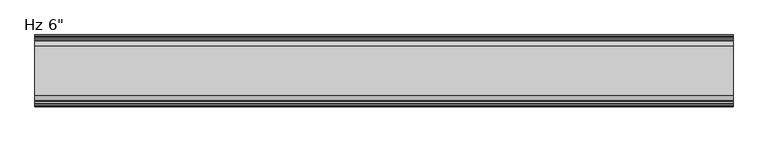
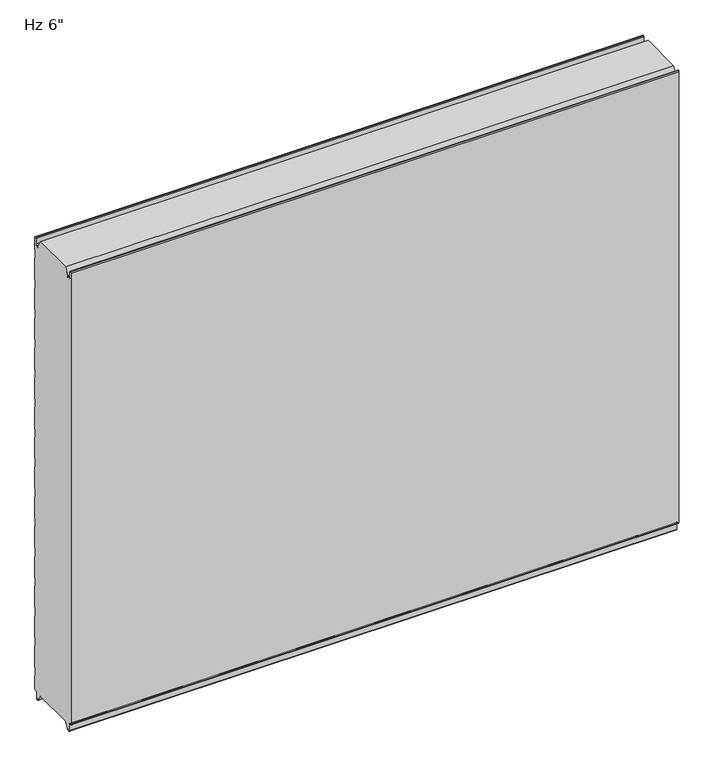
"""IFC4 building model written with IfcOpenShell, lengths in millimetres: plate geometry."""

from ifc_helpers import new_model, si_unit, frame, origin, place, context, project, spatial, polyline, circle_curve, source, transform, mapped, element, save
from ifc_brep_helpers import plane_surface, cylinder_surface, revolved_surface, advanced_brep


def plate_03f01161(model_context):
    return source(origin(), model_context, "Body", "AdvancedBrep", [
        advanced_brep(
        [(-730.0, -149.4227194, 3.8499499), (-730.0, -151.3999935, 5.8272239), (-730.0, -151.4, 1150.8100652), (-730.0, -149.4227315, 1152.7873337), (-730.0, -148.3806329, 1152.7873337), (-730.0, -146.4033643, 1150.8100652), (-730.0, -146.4033643, 1136.6216802), (-730.0, -143.8154878, 1134.0338036), (-730.0, -139.4950697, 1134.0338036), (-730.0, -138.9060762, 1133.4253365), (-730.0, -138.9060762, 1131.0482432), (-730.0, -137.9066023, 1131.0482432), (-730.0, -137.9066023, 1136.4905123), (-730.0, -128.6490865, 1152.525), (-730.0, -23.7509179, 1152.525), (-730.0, -14.4934021, 1136.4905123), (-730.0, -14.4934021, 1131.0482432), (-730.0, -13.4939282, 1131.0482432), (-730.0, -13.4939282, 1133.4253365), (-730.0, -12.9049347, 1134.0338036), (-730.0, -8.5845165, 1134.0338036), (-730.0, -5.99664, 1136.6216802), (-730.0, -5.99664, 1150.8100652), (-730.0, -4.0193715, 1152.7873337), (-730.0, -2.9772729, 1152.7873337), (-730.0, -1.0000044, 1150.8100652), (-730.0, -1.0000044, 1118.6385351), (-730.0, -2.1911595, 1117.5660142), (-730.0, -2.1911595, 1097.7830195), (-730.0, -1.0, 1096.7104947), (-730.0, -1.0, 1043.0159187), (-730.0, -2.1911595, 1041.9433939), (-730.0, -2.1911595, 1022.1603992), (-730.0, -1.0, 1021.0878744), (-730.0, -1.0, 967.3932985), (-730.0, -2.1911595, 966.3207736), (-730.0, -2.1911595, 946.537779), (-730.0, -1.0, 945.4652541), (-730.0, -1.0, 891.7706782), (-730.0, -2.1911595, 890.6981534), (-730.0, -2.1911595, 870.9151587), (-730.0, -1.0, 869.8426339), (-730.0, -1.0, 816.148058), (-730.0, -2.1911595, 815.0755331), (-730.0, -2.1911595, 795.2925384), (-730.0, -1.0, 794.2200136), (-730.0, -1.0, 740.5254377), (-730.0, -2.1911595, 739.4529129), (-730.0, -2.1911595, 719.6699182), (-730.0, -1.0, 718.5973933), (-730.0, -1.0, 664.9028174), (-730.0, -2.1911595, 663.8302926), (-730.0, -2.1911595, 644.0472979), (-730.0, -1.0, 642.9747731), (-730.0, -1.0, 589.2801972), (-730.0, -2.1911595, 588.2076723), (-730.0, -2.1911595, 568.4246776), (-730.0, -1.0, 567.3521528), (-730.0, -1.0, 513.6575769), (-730.0, -2.1911595, 512.5850521), (-730.0, -2.1911595, 492.8020574), (-730.0, -1.0, 491.7295325), (-730.0, -1.0, 438.0349566), (-730.0, -2.1911595, 436.9624318), (-730.0, -2.1911595, 417.1794371), (-730.0, -1.0, 416.1069123), (-730.0, -1.0, 362.4123364), (-730.0, -2.1911595, 361.3398115), (-730.0, -2.1911595, 341.5568169), (-730.0, -1.0, 340.484292), (-730.0, -1.0, 286.7897161), (-730.0, -2.1911595, 285.7171913), (-730.0, -2.1911595, 265.9341966), (-730.0, -1.0, 264.8616718), (-730.0, -1.0, 211.1670958), (-730.0, -2.1911595, 210.094571), (-730.0, -2.1911595, 190.3115763), (-730.0, -1.0, 189.2390515), (-730.0, -1.0, 135.5444756), (-730.0, -2.1911595, 134.4719507), (-730.0, -2.1911595, 114.6889561), (-730.0, -1.0, 113.6164312), (-730.0, -1.0, 59.9218553), (-730.0, -2.1911595, 58.8493305), (-730.0, -2.1911595, 39.0663358), (-730.0, -1.0000109, 37.993811), (-730.0, -1.0000109, 5.8272239), (-730.0, -2.9772849, 3.8499499), (-730.0, -5.2691749, 3.8499499), (-730.0, -9.246442, -0.1273173), (-730.0, -9.246442, -15.7237417), (-730.0, -9.8343189, -16.3116186), (-730.0, -12.9058679, -16.3116186), (-730.0, -13.4937446, -15.723742), (-730.0, -13.4937446, -13.3687064), (-730.0, -14.4937446, -13.3687064), (-730.0, -14.4937446, -15.6582851), (-730.0, -23.7509179, 0.0), (-730.0, -128.6490865, 0.0), (-730.0, -137.9062598, -15.6582851), (-730.0, -137.9062598, -13.3687064), (-730.0, -138.9062598, -13.3687064), (-730.0, -138.9062598, -15.723742), (-730.0, -139.4941365, -16.3116186), (-730.0, -142.5656854, -16.3116186), (-730.0, -143.1535623, -15.7237417), (-730.0, -143.1535623, -0.1273173), (-730.0, -147.1308295, 3.8499499), (730.0, -149.4227194, 3.8499499), (730.0, -147.1308295, 3.8499499), (730.0, -143.1535623, -0.1273173), (730.0, -143.1535623, -15.7237417), (730.0, -142.5656854, -16.3116186), (730.0, -139.4941365, -16.3116186), (730.0, -138.9062598, -15.723742), (730.0, -138.9062598, -13.3687064), (730.0, -137.9062598, -13.3687064), (730.0, -137.9062598, -15.6582851), (730.0, -128.6490865, 0.0), (730.0, -23.7509179, 0.0), (730.0, -14.4937446, -15.6582851), (730.0, -14.4937446, -13.3687064), (730.0, -13.4937446, -13.3687064), (730.0, -13.4937446, -15.723742), (730.0, -12.9058679, -16.3116186), (730.0, -9.8343189, -16.3116186), (730.0, -9.246442, -15.7237417), (730.0, -9.246442, -0.1273173), (730.0, -5.2691749, 3.8499499), (730.0, -2.9772849, 3.8499499), (730.0, -1.0000109, 5.8272239), (730.0, -1.0000109, 37.993811), (730.0, -2.1911595, 39.0663358), (730.0, -2.1911595, 58.8493305), (730.0, -1.0, 59.9218553), (730.0, -1.0, 113.6164312), (730.0, -2.1911595, 114.6889561), (730.0, -2.1911595, 134.4719507), (730.0, -1.0, 135.5444756), (730.0, -1.0, 189.2390515), (730.0, -2.1911595, 190.3115763), (730.0, -2.1911595, 210.094571), (730.0, -1.0, 211.1670958), (730.0, -1.0, 264.8616718), (730.0, -2.1911595, 265.9341966), (730.0, -2.1911595, 285.7171913), (730.0, -1.0, 286.7897161), (730.0, -1.0, 340.484292), (730.0, -2.1911595, 341.5568169), (730.0, -2.1911595, 361.3398115), (730.0, -1.0, 362.4123364), (730.0, -1.0, 416.1069123), (730.0, -2.1911595, 417.1794371), (730.0, -2.1911595, 436.9624318), (730.0, -1.0, 438.0349566), (730.0, -1.0, 491.7295325), (730.0, -2.1911595, 492.8020574), (730.0, -2.1911595, 512.5850521), (730.0, -1.0, 513.6575769), (730.0, -1.0, 567.3521528), (730.0, -2.1911595, 568.4246776), (730.0, -2.1911595, 588.2076723), (730.0, -1.0, 589.2801972), (730.0, -1.0, 642.9747731), (730.0, -2.1911595, 644.0472979), (730.0, -2.1911595, 663.8302926), (730.0, -1.0, 664.9028174), (730.0, -1.0, 718.5973933), (730.0, -2.1911595, 719.6699182), (730.0, -2.1911595, 739.4529129), (730.0, -1.0, 740.5254377), (730.0, -1.0, 794.2200136), (730.0, -2.1911595, 795.2925384), (730.0, -2.1911595, 815.0755331), (730.0, -1.0, 816.148058), (730.0, -1.0, 869.8426339), (730.0, -2.1911595, 870.9151587), (730.0, -2.1911595, 890.6981534), (730.0, -1.0, 891.7706782), (730.0, -1.0, 945.4652541), (730.0, -2.1911595, 946.537779), (730.0, -2.1911595, 966.3207736), (730.0, -1.0, 967.3932985), (730.0, -1.0, 1021.0878744), (730.0, -2.1911595, 1022.1603992), (730.0, -2.1911595, 1041.9433939), (730.0, -1.0, 1043.0159187), (730.0, -1.0, 1096.7104947), (730.0, -2.1911595, 1097.7830195), (730.0, -2.1911595, 1117.5660142), (730.0, -1.0000044, 1118.6385351), (730.0, -1.0000044, 1150.8100652), (730.0, -2.9772729, 1152.7873337), (730.0, -4.0193715, 1152.7873337), (730.0, -5.99664, 1150.8100652), (730.0, -5.99664, 1136.6216802), (730.0, -8.5845165, 1134.0338036), (730.0, -12.9049347, 1134.0338036), (730.0, -13.4939282, 1133.4253365), (730.0, -13.4939282, 1131.0482432), (730.0, -14.4934021, 1131.0482432), (730.0, -14.4934021, 1136.4905123), (730.0, -23.7509179, 1152.525), (730.0, -128.6490865, 1152.525), (730.0, -137.9066023, 1136.4905123), (730.0, -137.9066023, 1131.0482432), (730.0, -138.9060762, 1131.0482432), (730.0, -138.9060762, 1133.4253365), (730.0, -139.4950697, 1134.0338036), (730.0, -143.8154878, 1134.0338036), (730.0, -146.4033643, 1136.6216802), (730.0, -146.4033643, 1150.8100652), (730.0, -148.3806329, 1152.7873337), (730.0, -149.4227315, 1152.7873337), (730.0, -151.4, 1150.8100652), (730.0, -151.4, 5.8272239)],
        [
            (0, 1, circle_curve(frame((-730.0, -149.4227194, 5.8272239), z_axis=(-1.0, 0.0, 0.0), x_axis=(0.0, 0.0, -1.0)), 1.977274)),
            (1, 2),
            (2, 3, circle_curve(frame((-730.0, -149.4227315, 1150.8100652), z_axis=(-1.0, 0.0, 0.0), x_axis=(0.0, 0.0, -1.0)), 1.9772685)),
            (3, 4),
            (4, 5, circle_curve(frame((-730.0, -148.3806329, 1150.8100652), z_axis=(-1.0, 0.0, 0.0), x_axis=(0.0, 0.0, -1.0)), 1.9772685)),
            (5, 6),
            (6, 7, circle_curve(frame((-730.0, -143.8154878, 1136.6216802), z_axis=(1.0, 0.0, 0.0), x_axis=(0.0, 0.0, -1.0)), 2.5878765)),
            (7, 8),
            (8, 9, circle_curve(frame((-730.0, -139.4950697, 1133.4444985), z_axis=(-1.0, 0.0, 0.0), x_axis=(0.0, 0.0, -1.0)), 0.5893051)),
            (9, 10),
            (10, 11),
            (11, 12),
            (12, 13),
            (13, 14),
            (14, 15),
            (15, 16),
            (16, 17),
            (17, 18),
            (18, 19, circle_curve(frame((-730.0, -12.9049347, 1133.4444985), z_axis=(-1.0, 0.0, 0.0), x_axis=(0.0, 1.0, 0.0)), 0.5893051)),
            (19, 20),
            (20, 21, circle_curve(frame((-730.0, -8.5845165, 1136.6216802), z_axis=(1.0, 0.0, 0.0), x_axis=(0.0, 1.0, 0.0)), 2.5878765)),
            (21, 22),
            (22, 23, circle_curve(frame((-730.0, -4.0193715, 1150.8100652), z_axis=(-1.0, 0.0, 0.0), x_axis=(0.0, 1.0, 0.0)), 1.9772685)),
            (23, 24),
            (24, 25, circle_curve(frame((-730.0, -2.9772729, 1150.8100652), z_axis=(-1.0, 0.0, 0.0), x_axis=(0.0, 1.0, 0.0)), 1.9772685)),
            (25, 26),
            (26, 27),
            (27, 28),
            (28, 29),
            (29, 30),
            (30, 31),
            (31, 32),
            (32, 33),
            (33, 34),
            (34, 35),
            (35, 36),
            (36, 37),
            (37, 38),
            (38, 39),
            (39, 40),
            (40, 41),
            (41, 42),
            (42, 43),
            (43, 44),
            (44, 45),
            (45, 46),
            (46, 47),
            (47, 48),
            (48, 49),
            (49, 50),
            (50, 51),
            (51, 52),
            (52, 53),
            (53, 54),
            (54, 55),
            (55, 56),
            (56, 57),
            (57, 58),
            (58, 59),
            (59, 60),
            (60, 61),
            (61, 62),
            (62, 63),
            (63, 64),
            (64, 65),
            (65, 66),
            (66, 67),
            (67, 68),
            (68, 69),
            (69, 70),
            (70, 71),
            (71, 72),
            (72, 73),
            (73, 74),
            (74, 75),
            (75, 76),
            (76, 77),
            (77, 78),
            (78, 79),
            (79, 80),
            (80, 81),
            (81, 82),
            (82, 83),
            (83, 84),
            (84, 85),
            (85, 86),
            (86, 87, circle_curve(frame((-730.0, -2.9772849, 5.8272239), z_axis=(-1.0, 0.0, 0.0), x_axis=(0.0, 1.0, 0.0)), 1.977274)),
            (87, 88),
            (88, 89, circle_curve(frame((-730.0, -5.2691749, -0.1273173), z_axis=(1.0, 0.0, 0.0), x_axis=(0.0, 1.0, 0.0)), 3.9772671)),
            (89, 90),
            (90, 91, circle_curve(frame((-730.0, -9.8343189, -15.7237417), z_axis=(-1.0, 0.0, 0.0), x_axis=(0.0, 1.0, 0.0)), 0.5878769)),
            (91, 92),
            (92, 93, circle_curve(frame((-730.0, -12.9058679, -15.723742), z_axis=(-1.0, 0.0, 0.0), x_axis=(0.0, 1.0, 0.0)), 0.5878766)),
            (93, 94),
            (94, 95),
            (95, 96),
            (96, 97),
            (97, 98),
            (98, 99),
            (99, 100),
            (100, 101),
            (101, 102),
            (102, 103, circle_curve(frame((-730.0, -139.4941365, -15.723742), z_axis=(-1.0, 0.0, 0.0), x_axis=(0.0, 0.0, -1.0)), 0.5878766)),
            (103, 104),
            (104, 105, circle_curve(frame((-730.0, -142.5656854, -15.7237417), z_axis=(-1.0, 0.0, 0.0), x_axis=(0.0, 0.0, -1.0)), 0.5878769)),
            (105, 106),
            (106, 107, circle_curve(frame((-730.0, -147.1308295, -0.1273173), z_axis=(1.0, 0.0, 0.0), x_axis=(0.0, 0.0, -1.0)), 3.9772671)),
            (107, 0),
            (108, 109),
            (109, 110, circle_curve(frame((730.0, -147.1308295, -0.1273173), z_axis=(-1.0, 0.0, 0.0), x_axis=(0.0, 0.0, -1.0)), 3.9772671)),
            (110, 111),
            (111, 112, circle_curve(frame((730.0, -142.5656854, -15.7237417), z_axis=(1.0, 0.0, 0.0), x_axis=(0.0, 0.0, -1.0)), 0.5878769)),
            (112, 113),
            (113, 114, circle_curve(frame((730.0, -139.4941365, -15.723742), z_axis=(1.0, 0.0, 0.0), x_axis=(0.0, 0.0, -1.0)), 0.5878766)),
            (114, 115),
            (115, 116),
            (116, 117),
            (117, 118),
            (118, 119),
            (119, 120),
            (120, 121),
            (121, 122),
            (122, 123),
            (123, 124, circle_curve(frame((730.0, -12.9058679, -15.723742), z_axis=(1.0, 0.0, 0.0), x_axis=(0.0, 1.0, 0.0)), 0.5878766)),
            (124, 125),
            (125, 126, circle_curve(frame((730.0, -9.8343189, -15.7237417), z_axis=(1.0, 0.0, 0.0), x_axis=(0.0, 1.0, 0.0)), 0.5878769)),
            (126, 127),
            (127, 128, circle_curve(frame((730.0, -5.2691749, -0.1273173), z_axis=(-1.0, 0.0, 0.0), x_axis=(0.0, 1.0, 0.0)), 3.9772671)),
            (128, 129),
            (129, 130, circle_curve(frame((730.0, -2.9772849, 5.8272239), z_axis=(1.0, 0.0, 0.0), x_axis=(0.0, 1.0, 0.0)), 1.977274)),
            (130, 131),
            (131, 132),
            (132, 133),
            (133, 134),
            (134, 135),
            (135, 136),
            (136, 137),
            (137, 138),
            (138, 139),
            (139, 140),
            (140, 141),
            (141, 142),
            (142, 143),
            (143, 144),
            (144, 145),
            (145, 146),
            (146, 147),
            (147, 148),
            (148, 149),
            (149, 150),
            (150, 151),
            (151, 152),
            (152, 153),
            (153, 154),
            (154, 155),
            (155, 156),
            (156, 157),
            (157, 158),
            (158, 159),
            (159, 160),
            (160, 161),
            (161, 162),
            (162, 163),
            (163, 164),
            (164, 165),
            (165, 166),
            (166, 167),
            (167, 168),
            (168, 169),
            (169, 170),
            (170, 171),
            (171, 172),
            (172, 173),
            (173, 174),
            (174, 175),
            (175, 176),
            (176, 177),
            (177, 178),
            (178, 179),
            (179, 180),
            (180, 181),
            (181, 182),
            (182, 183),
            (183, 184),
            (184, 185),
            (185, 186),
            (186, 187),
            (187, 188),
            (188, 189),
            (189, 190),
            (190, 191),
            (191, 192, circle_curve(frame((730.0, -2.9772729, 1150.8100652), z_axis=(1.0, 0.0, 0.0), x_axis=(0.0, 1.0, 0.0)), 1.9772685)),
            (192, 193),
            (193, 194, circle_curve(frame((730.0, -4.0193715, 1150.8100652), z_axis=(1.0, 0.0, 0.0), x_axis=(0.0, 1.0, 0.0)), 1.9772685)),
            (194, 195),
            (195, 196, circle_curve(frame((730.0, -8.5845165, 1136.6216802), z_axis=(-1.0, 0.0, 0.0), x_axis=(0.0, 1.0, 0.0)), 2.5878765)),
            (196, 197),
            (197, 198, circle_curve(frame((730.0, -12.9049347, 1133.4444985), z_axis=(1.0, 0.0, 0.0), x_axis=(0.0, 1.0, 0.0)), 0.5893051)),
            (198, 199),
            (199, 200),
            (200, 201),
            (201, 202),
            (202, 203),
            (203, 204),
            (204, 205),
            (205, 206),
            (206, 207),
            (207, 208, circle_curve(frame((730.0, -139.4950697, 1133.4444985), z_axis=(1.0, 0.0, 0.0), x_axis=(0.0, 0.0, -1.0)), 0.5893051)),
            (208, 209),
            (209, 210, circle_curve(frame((730.0, -143.8154878, 1136.6216802), z_axis=(-1.0, 0.0, 0.0), x_axis=(0.0, 0.0, -1.0)), 2.5878765)),
            (210, 211),
            (211, 212, circle_curve(frame((730.0, -148.3806329, 1150.8100652), z_axis=(1.0, 0.0, 0.0), x_axis=(0.0, 0.0, -1.0)), 1.9772685)),
            (212, 213),
            (213, 214, circle_curve(frame((730.0, -149.4227315, 1150.8100652), z_axis=(1.0, 0.0, 0.0), x_axis=(0.0, 0.0, -1.0)), 1.9772685)),
            (214, 215),
            (215, 108, circle_curve(frame((730.0, -149.4227194, 5.8272239), z_axis=(1.0, 0.0, 0.0), x_axis=(0.0, 0.0, -1.0)), 1.977274)),
            (27, 189),
            (188, 28),
            (26, 190),
            (25, 191),
            (24, 192),
            (23, 193),
            (22, 194),
            (21, 195),
            (20, 196),
            (19, 197),
            (18, 198),
            (17, 199),
            (16, 200),
            (15, 201),
            (14, 202),
            (96, 120),
            (119, 97),
            (95, 121),
            (94, 122),
            (93, 123),
            (92, 124),
            (91, 125),
            (90, 126),
            (89, 127),
            (88, 128),
            (87, 129),
            (86, 130),
            (85, 131),
            (84, 132),
            (83, 133),
            (82, 134),
            (81, 135),
            (80, 136),
            (79, 137),
            (78, 138),
            (77, 139),
            (76, 140),
            (75, 141),
            (74, 142),
            (73, 143),
            (72, 144),
            (71, 145),
            (70, 146),
            (69, 147),
            (68, 148),
            (67, 149),
            (66, 150),
            (65, 151),
            (64, 152),
            (63, 153),
            (62, 154),
            (61, 155),
            (60, 156),
            (59, 157),
            (58, 158),
            (57, 159),
            (56, 160),
            (55, 161),
            (54, 162),
            (53, 163),
            (52, 164),
            (51, 165),
            (50, 166),
            (49, 167),
            (48, 168),
            (47, 169),
            (46, 170),
            (45, 171),
            (44, 172),
            (43, 173),
            (42, 174),
            (41, 175),
            (40, 176),
            (39, 177),
            (38, 178),
            (37, 179),
            (36, 180),
            (35, 181),
            (34, 182),
            (33, 183),
            (32, 184),
            (31, 185),
            (30, 186),
            (29, 187),
            (13, 203),
            (118, 98),
            (107, 109),
            (108, 0),
            (106, 110),
            (105, 111),
            (104, 112),
            (103, 113),
            (102, 114),
            (101, 115),
            (100, 116),
            (99, 117),
            (12, 204),
            (11, 205),
            (10, 206),
            (9, 207),
            (8, 208),
            (7, 209),
            (6, 210),
            (5, 211),
            (4, 212),
            (3, 213),
            (2, 214),
            (1, 215),
        ],
        [
            plane_surface(frame((-730.0, -151.4, 576.2625), z_axis=(-1.0, 0.0, 0.0), x_axis=(0.0, -1.0, 0.0))),
            plane_surface(frame((730.0, -151.4, 576.2625), z_axis=(1.0, 0.0, 0.0), x_axis=(0.0, -1.0, 0.0))),
            plane_surface(frame((-730.0, -2.1911595, 1097.7830195), z_axis=(0.0, 1.0, 0.0), x_axis=(1.0, 0.0, 0.0))),
            plane_surface(frame((-730.0, -2.1911595, 1117.5660142), z_axis=(0.0, 0.669130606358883, -0.7431448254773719), x_axis=(1.0, 0.0, 0.0))),
            plane_surface(frame((-730.0, -1.0000044, 1118.6385351), z_axis=(0.0, 1.0, 0.0), x_axis=(1.0, 0.0, 0.0))),
            cylinder_surface(frame((-730.0, -2.9772729, 1150.8100652), z_axis=(-1.0, 0.0, 0.0), x_axis=(0.0, 1.0, 0.0)), 1.9772685),
            plane_surface(frame((-730.0, -2.9772729, 1152.7873337), z_axis=(0.0, 0.0, 1.0), x_axis=(1.0, 0.0, 0.0))),
            cylinder_surface(frame((-730.0, -4.0193715, 1150.8100652), z_axis=(-1.0, 0.0, 0.0), x_axis=(0.0, 1.0, 0.0)), 1.9772685),
            plane_surface(frame((-730.0, -5.99664, 1150.8100652), z_axis=(0.0, -1.0, 0.0), x_axis=(1.0, 0.0, 0.0))),
            revolved_surface(polyline([(730.0, -5.996639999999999, 1136.6216802), (-730.0, -5.996639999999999, 1136.6216802)]), (-730.0, -8.5845165, 1136.6216802), (1.0, 0.0, 0.0)),
            plane_surface(frame((-730.0, -8.5845165, 1134.0338036), z_axis=(0.0, 0.0, 1.0), x_axis=(1.0, 0.0, 0.0))),
            cylinder_surface(frame((-730.0, -12.9049347, 1133.4444985), z_axis=(-1.0, 0.0, 0.0), x_axis=(0.0, 1.0, 0.0)), 0.5893051),
            plane_surface(frame((-730.0, -13.4939282, 1133.4253365), z_axis=(0.0, -1.0, 0.0), x_axis=(1.0, 0.0, 0.0))),
            plane_surface(frame((-730.0, -13.4939282, 1131.0482432), z_axis=(0.0, 0.0, 1.0), x_axis=(1.0, 0.0, 0.0))),
            plane_surface(frame((-730.0, -14.4934021, 1131.0482432), z_axis=(0.0, 1.0, 0.0), x_axis=(1.0, 0.0, 0.0))),
            plane_surface(frame((-730.0, -14.4934021, 1136.4905123), z_axis=(0.0, 0.8660254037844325, 0.5000000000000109), x_axis=(1.0, 0.0, 0.0))),
            plane_surface(frame((-730.0, -23.7509179, 0.0), z_axis=(0.0, -0.8608169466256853, -0.5089147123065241), x_axis=(1.0, 0.0, 0.0))),
            plane_surface(frame((-730.0, -14.4937446, -15.6582851), z_axis=(0.0, 1.0, 0.0), x_axis=(1.0, 0.0, 0.0))),
            plane_surface(frame((-730.0, -14.4937446, -13.3687064), z_axis=(0.0, 0.0, -1.0), x_axis=(1.0, 0.0, 0.0))),
            plane_surface(frame((-730.0, -13.4937446, -13.3687064), z_axis=(0.0, -1.0, 0.0), x_axis=(1.0, 0.0, 0.0))),
            cylinder_surface(frame((-730.0, -12.9058679, -15.723742), z_axis=(-1.0, 0.0, 0.0), x_axis=(0.0, 1.0, 0.0)), 0.5878766),
            plane_surface(frame((-730.0, -12.9058679, -16.3116186), z_axis=(0.0, 0.0, -1.0), x_axis=(1.0, 0.0, 0.0))),
            cylinder_surface(frame((-730.0, -9.8343189, -15.7237417), z_axis=(-1.0, 0.0, 0.0), x_axis=(0.0, 1.0, 0.0)), 0.5878769),
            plane_surface(frame((-730.0, -9.246442, -15.7237417), z_axis=(0.0, 1.0, 0.0), x_axis=(1.0, 0.0, 0.0))),
            revolved_surface(polyline([(730.0, -1.2919078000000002, -0.1273173), (-730.0, -1.2919078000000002, -0.1273173)]), (-730.0, -5.2691749, -0.1273173), (1.0, 0.0, 0.0)),
            plane_surface(frame((-730.0, -5.2691749, 3.8499499), z_axis=(0.0, 0.0, -1.0), x_axis=(1.0, 0.0, 0.0))),
            cylinder_surface(frame((-730.0, -2.9772849, 5.8272239), z_axis=(-1.0, 0.0, 0.0), x_axis=(0.0, 1.0, 0.0)), 1.977274),
            plane_surface(frame((-730.0, -1.0000109, 5.8272239), z_axis=(0.0, 1.0, 0.0), x_axis=(1.0, 0.0, 0.0))),
            plane_surface(frame((-730.0, -1.0000109, 37.993811), z_axis=(0.0, 0.6691339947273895, 0.7431417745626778), x_axis=(1.0, 0.0, 0.0))),
            plane_surface(frame((-730.0, -2.1911595, 39.0663358), z_axis=(0.0, 1.0, 0.0), x_axis=(1.0, 0.0, 0.0))),
            plane_surface(frame((-730.0, -2.1911595, 58.8493305), z_axis=(0.0, 0.6691306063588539, -0.7431448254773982), x_axis=(1.0, 0.0, 0.0))),
            plane_surface(frame((-730.0, -1.0, 59.9218553), z_axis=(0.0, 1.0, 0.0), x_axis=(1.0, 0.0, 0.0))),
            plane_surface(frame((-730.0, -1.0, 113.6164312), z_axis=(0.0, 0.6691306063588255, 0.7431448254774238), x_axis=(1.0, 0.0, 0.0))),
            plane_surface(frame((-730.0, -2.1911595, 114.6889561), z_axis=(0.0, 1.0, 0.0), x_axis=(1.0, 0.0, 0.0))),
            plane_surface(frame((-730.0, -2.1911595, 134.4719507), z_axis=(0.0, 0.6691306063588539, -0.7431448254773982), x_axis=(1.0, 0.0, 0.0))),
            plane_surface(frame((-730.0, -1.0, 135.5444756), z_axis=(0.0, 1.0, 0.0), x_axis=(1.0, 0.0, 0.0))),
            plane_surface(frame((-730.0, -1.0, 189.2390515), z_axis=(0.0, 0.669130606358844, 0.743144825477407), x_axis=(1.0, 0.0, 0.0))),
            plane_surface(frame((-730.0, -2.1911595, 190.3115763), z_axis=(0.0, 1.0, 0.0), x_axis=(1.0, 0.0, 0.0))),
            plane_surface(frame((-730.0, -2.1911595, 210.094571), z_axis=(0.0, 0.6691306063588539, -0.7431448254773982), x_axis=(1.0, 0.0, 0.0))),
            plane_surface(frame((-730.0, -1.0, 211.1670958), z_axis=(0.0, 1.0, 0.0), x_axis=(1.0, 0.0, 0.0))),
            plane_surface(frame((-730.0, -1.0, 264.8616718), z_axis=(0.0, 0.6691306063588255, 0.7431448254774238), x_axis=(1.0, 0.0, 0.0))),
            plane_surface(frame((-730.0, -2.1911595, 265.9341966), z_axis=(0.0, 1.0, 0.0), x_axis=(1.0, 0.0, 0.0))),
            plane_surface(frame((-730.0, -2.1911595, 285.7171913), z_axis=(0.0, 0.6691306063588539, -0.7431448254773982), x_axis=(1.0, 0.0, 0.0))),
            plane_surface(frame((-730.0, -1.0, 286.7897161), z_axis=(0.0, 1.0, 0.0), x_axis=(1.0, 0.0, 0.0))),
            plane_surface(frame((-730.0, -1.0, 340.484292), z_axis=(0.0, 0.669130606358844, 0.743144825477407), x_axis=(1.0, 0.0, 0.0))),
            plane_surface(frame((-730.0, -2.1911595, 341.5568169), z_axis=(0.0, 1.0, 0.0), x_axis=(1.0, 0.0, 0.0))),
            plane_surface(frame((-730.0, -2.1911595, 361.3398115), z_axis=(0.0, 0.6691306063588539, -0.7431448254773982), x_axis=(1.0, 0.0, 0.0))),
            plane_surface(frame((-730.0, -1.0, 362.4123364), z_axis=(0.0, 1.0, 0.0), x_axis=(1.0, 0.0, 0.0))),
            plane_surface(frame((-730.0, -1.0, 416.1069123), z_axis=(0.0, 0.669130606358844, 0.743144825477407), x_axis=(1.0, 0.0, 0.0))),
            plane_surface(frame((-730.0, -2.1911595, 417.1794371), z_axis=(0.0, 1.0, 0.0), x_axis=(1.0, 0.0, 0.0))),
            plane_surface(frame((-730.0, -2.1911595, 436.9624318), z_axis=(0.0, 0.6691306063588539, -0.7431448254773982), x_axis=(1.0, 0.0, 0.0))),
            plane_surface(frame((-730.0, -1.0, 438.0349566), z_axis=(0.0, 1.0, 0.0), x_axis=(1.0, 0.0, 0.0))),
            plane_surface(frame((-730.0, -1.0, 491.7295325), z_axis=(0.0, 0.6691306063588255, 0.7431448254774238), x_axis=(1.0, 0.0, 0.0))),
            plane_surface(frame((-730.0, -2.1911595, 492.8020574), z_axis=(0.0, 1.0, 0.0), x_axis=(1.0, 0.0, 0.0))),
            plane_surface(frame((-730.0, -2.1911595, 512.5850521), z_axis=(0.0, 0.6691306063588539, -0.7431448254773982), x_axis=(1.0, 0.0, 0.0))),
            plane_surface(frame((-730.0, -1.0, 513.6575769), z_axis=(0.0, 1.0, 0.0), x_axis=(1.0, 0.0, 0.0))),
            plane_surface(frame((-730.0, -1.0, 567.3521528), z_axis=(0.0, 0.669130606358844, 0.743144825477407), x_axis=(1.0, 0.0, 0.0))),
            plane_surface(frame((-730.0, -2.1911595, 568.4246776), z_axis=(0.0, 1.0, 0.0), x_axis=(1.0, 0.0, 0.0))),
            plane_surface(frame((-730.0, -2.1911595, 588.2076723), z_axis=(0.0, 0.6691306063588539, -0.7431448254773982), x_axis=(1.0, 0.0, 0.0))),
            plane_surface(frame((-730.0, -1.0, 589.2801972), z_axis=(0.0, 1.0, 0.0), x_axis=(1.0, 0.0, 0.0))),
            plane_surface(frame((-730.0, -1.0, 642.9747731), z_axis=(0.0, 0.6691306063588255, 0.7431448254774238), x_axis=(1.0, 0.0, 0.0))),
            plane_surface(frame((-730.0, -2.1911595, 644.0472979), z_axis=(0.0, 1.0, 0.0), x_axis=(1.0, 0.0, 0.0))),
            plane_surface(frame((-730.0, -2.1911595, 663.8302926), z_axis=(0.0, 0.6691306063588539, -0.7431448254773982), x_axis=(1.0, 0.0, 0.0))),
            plane_surface(frame((-730.0, -1.0, 664.9028174), z_axis=(0.0, 1.0, 0.0), x_axis=(1.0, 0.0, 0.0))),
            plane_surface(frame((-730.0, -1.0, 718.5973933), z_axis=(0.0, 0.669130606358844, 0.743144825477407), x_axis=(1.0, 0.0, 0.0))),
            plane_surface(frame((-730.0, -2.1911595, 719.6699182), z_axis=(0.0, 1.0, 0.0), x_axis=(1.0, 0.0, 0.0))),
            plane_surface(frame((-730.0, -2.1911595, 739.4529129), z_axis=(0.0, 0.6691306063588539, -0.7431448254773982), x_axis=(1.0, 0.0, 0.0))),
            plane_surface(frame((-730.0, -1.0, 740.5254377), z_axis=(0.0, 1.0, 0.0), x_axis=(1.0, 0.0, 0.0))),
            plane_surface(frame((-730.0, -1.0, 794.2200136), z_axis=(0.0, 0.6691306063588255, 0.7431448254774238), x_axis=(1.0, 0.0, 0.0))),
            plane_surface(frame((-730.0, -2.1911595, 795.2925384), z_axis=(0.0, 1.0, 0.0), x_axis=(1.0, 0.0, 0.0))),
            plane_surface(frame((-730.0, -2.1911595, 815.0755331), z_axis=(0.0, 0.6691306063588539, -0.7431448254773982), x_axis=(1.0, 0.0, 0.0))),
            plane_surface(frame((-730.0, -1.0, 816.148058), z_axis=(0.0, 1.0, 0.0), x_axis=(1.0, 0.0, 0.0))),
            plane_surface(frame((-730.0, -1.0, 869.8426339), z_axis=(0.0, 0.669130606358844, 0.743144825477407), x_axis=(1.0, 0.0, 0.0))),
            plane_surface(frame((-730.0, -2.1911595, 870.9151587), z_axis=(0.0, 1.0, 0.0), x_axis=(1.0, 0.0, 0.0))),
            plane_surface(frame((-730.0, -2.1911595, 890.6981534), z_axis=(0.0, 0.6691306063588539, -0.7431448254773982), x_axis=(1.0, 0.0, 0.0))),
            plane_surface(frame((-730.0, -1.0, 891.7706782), z_axis=(0.0, 1.0, 0.0), x_axis=(1.0, 0.0, 0.0))),
            plane_surface(frame((-730.0, -1.0, 945.4652541), z_axis=(0.0, 0.669130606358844, 0.743144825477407), x_axis=(1.0, 0.0, 0.0))),
            plane_surface(frame((-730.0, -2.1911595, 946.537779), z_axis=(0.0, 1.0, 0.0), x_axis=(1.0, 0.0, 0.0))),
            plane_surface(frame((-730.0, -2.1911595, 966.3207736), z_axis=(0.0, 0.6691306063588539, -0.7431448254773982), x_axis=(1.0, 0.0, 0.0))),
            plane_surface(frame((-730.0, -1.0, 967.3932985), z_axis=(0.0, 1.0, 0.0), x_axis=(1.0, 0.0, 0.0))),
            plane_surface(frame((-730.0, -1.0, 1021.0878744), z_axis=(0.0, 0.669130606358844, 0.743144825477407), x_axis=(1.0, 0.0, 0.0))),
            plane_surface(frame((-730.0, -2.1911595, 1022.1603992), z_axis=(0.0, 1.0, 0.0), x_axis=(1.0, 0.0, 0.0))),
            plane_surface(frame((-730.0, -2.1911595, 1041.9433939), z_axis=(0.0, 0.6691306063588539, -0.7431448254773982), x_axis=(1.0, 0.0, 0.0))),
            plane_surface(frame((-730.0, -1.0, 1043.0159187), z_axis=(0.0, 1.0, 0.0), x_axis=(1.0, 0.0, 0.0))),
            plane_surface(frame((-730.0, -1.0, 1096.7104947), z_axis=(0.0, 0.669130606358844, 0.743144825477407), x_axis=(1.0, 0.0, 0.0))),
            plane_surface(frame((-730.0, -128.6490865, 1152.525), z_axis=(0.0, 0.0, 1.0), x_axis=(-1.0, 0.0, 0.0))),
            plane_surface(frame((-730.0, -128.6490865, 0.0), z_axis=(0.0, 0.0, -1.0), x_axis=(1.0, 0.0, 0.0))),
            plane_surface(frame((-730.0, -149.4227194, 3.8499499), z_axis=(0.0, 0.0, -1.0), x_axis=(1.0, 0.0, 0.0))),
            revolved_surface(polyline([(730.0, -147.1308295, -4.1045844), (-730.0, -147.1308295, -4.1045844)]), (-730.0, -147.1308295, -0.1273173), (1.0, 0.0, 0.0)),
            plane_surface(frame((-730.0, -143.1535623, -0.1273173), z_axis=(0.0, -1.0, 0.0), x_axis=(1.0, 0.0, 0.0))),
            cylinder_surface(frame((-730.0, -142.5656854, -15.7237417), z_axis=(-1.0, 0.0, 0.0), x_axis=(0.0, 0.0, -1.0)), 0.5878769),
            plane_surface(frame((-730.0, -142.5656854, -16.3116186), z_axis=(0.0, 0.0, -1.0), x_axis=(1.0, 0.0, 0.0))),
            cylinder_surface(frame((-730.0, -139.4941365, -15.723742), z_axis=(-1.0, 0.0, 0.0), x_axis=(0.0, 0.0, -1.0)), 0.5878766),
            plane_surface(frame((-730.0, -138.9062598, -15.723742), z_axis=(0.0, 1.0, 0.0), x_axis=(1.0, 0.0, 0.0))),
            plane_surface(frame((-730.0, -138.9062598, -13.3687064), z_axis=(0.0, 0.0, -1.0), x_axis=(1.0, 0.0, 0.0))),
            plane_surface(frame((-730.0, -137.9062598, -13.3687064), z_axis=(0.0, -1.0, 0.0), x_axis=(1.0, 0.0, 0.0))),
            plane_surface(frame((-730.0, -137.9062598, -15.6582851), z_axis=(0.0, 0.8608169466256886, -0.5089147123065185), x_axis=(1.0, 0.0, 0.0))),
            plane_surface(frame((-730.0, -128.6490865, 1152.525), z_axis=(0.0, -0.8660254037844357, 0.5000000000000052), x_axis=(1.0, 0.0, 0.0))),
            plane_surface(frame((-730.0, -137.9066023, 1136.4905123), z_axis=(0.0, -1.0, 0.0), x_axis=(1.0, 0.0, 0.0))),
            plane_surface(frame((-730.0, -137.9066023, 1131.0482432), z_axis=(0.0, 0.0, 1.0), x_axis=(1.0, 0.0, 0.0))),
            plane_surface(frame((-730.0, -138.9060762, 1131.0482432), z_axis=(0.0, 1.0, 0.0), x_axis=(1.0, 0.0, 0.0))),
            cylinder_surface(frame((-730.0, -139.4950697, 1133.4444985), z_axis=(-1.0, 0.0, 0.0), x_axis=(0.0, 0.0, -1.0)), 0.5893051),
            plane_surface(frame((-730.0, -139.4950697, 1134.0338036), z_axis=(0.0, 0.0, 1.0), x_axis=(1.0, 0.0, 0.0))),
            revolved_surface(polyline([(730.0, -143.8154878, 1134.0338037), (-730.0, -143.8154878, 1134.0338037)]), (-730.0, -143.8154878, 1136.6216802), (1.0, 0.0, 0.0)),
            plane_surface(frame((-730.0, -146.4033643, 1136.6216802), z_axis=(0.0, 1.0, 0.0), x_axis=(1.0, 0.0, 0.0))),
            cylinder_surface(frame((-730.0, -148.3806329, 1150.8100652), z_axis=(-1.0, 0.0, 0.0), x_axis=(0.0, 0.0, -1.0)), 1.9772685),
            plane_surface(frame((-730.0, -148.3806329, 1152.7873337), z_axis=(0.0, 0.0, 1.0), x_axis=(1.0, 0.0, 0.0))),
            cylinder_surface(frame((-730.0, -149.4227315, 1150.8100652), z_axis=(-1.0, 0.0, 0.0), x_axis=(0.0, 0.0, -1.0)), 1.9772685),
            plane_surface(frame((-730.0, -151.4, 1150.8100652), z_axis=(0.0, -1.0, 0.0), x_axis=(1.0, 0.0, 0.0))),
            cylinder_surface(frame((-730.0, -149.4227194, 5.8272239), z_axis=(-1.0, 0.0, 0.0), x_axis=(0.0, 0.0, -1.0)), 1.977274),
        ],
        [
            (0, [[1, 2, 3, 4, 5, 6, 7, 8, 9, 10, 11, 12, 13, 14, 15, 16, 17, 18, 19, 20, 21, 22, 23, 24, 25, 26, 27, 28, 29, 30, 31, 32, 33, 34, 35, 36, 37, 38, 39, 40, 41, 42, 43, 44, 45, 46, 47, 48, 49, 50, 51, 52, 53, 54, 55, 56, 57, 58, 59, 60, 61, 62, 63, 64, 65, 66, 67, 68, 69, 70, 71, 72, 73, 74, 75, 76, 77, 78, 79, 80, 81, 82, 83, 84, 85, 86, 87, 88, 89, 90, 91, 92, 93, 94, 95, 96, 97, 98, 99, 100, 101, 102, 103, 104, 105, 106, 107, 108]]),
            (1, [[109, 110, 111, 112, 113, 114, 115, 116, 117, 118, 119, 120, 121, 122, 123, 124, 125, 126, 127, 128, 129, 130, 131, 132, 133, 134, 135, 136, 137, 138, 139, 140, 141, 142, 143, 144, 145, 146, 147, 148, 149, 150, 151, 152, 153, 154, 155, 156, 157, 158, 159, 160, 161, 162, 163, 164, 165, 166, 167, 168, 169, 170, 171, 172, 173, 174, 175, 176, 177, 178, 179, 180, 181, 182, 183, 184, 185, 186, 187, 188, 189, 190, 191, 192, 193, 194, 195, 196, 197, 198, 199, 200, 201, 202, 203, 204, 205, 206, 207, 208, 209, 210, 211, 212, 213, 214, 215, 216]]),
            (2, [[217, -189, 218, -28]]),
            (3, [[219, -190, -217, -27]]),
            (4, [[220, -191, -219, -26]]),
            (5, [[221, -192, -220, -25]]),
            (6, [[222, -193, -221, -24]]),
            (7, [[223, -194, -222, -23]]),
            (8, [[224, -195, -223, -22]]),
            (9, [[225, -196, -224, -21]]),
            (10, [[226, -197, -225, -20]]),
            (11, [[227, -198, -226, -19]]),
            (12, [[228, -199, -227, -18]]),
            (13, [[229, -200, -228, -17]]),
            (14, [[230, -201, -229, -16]]),
            (15, [[231, -202, -230, -15]]),
            (16, [[232, -120, 233, -97]]),
            (17, [[234, -121, -232, -96]]),
            (18, [[235, -122, -234, -95]]),
            (19, [[236, -123, -235, -94]]),
            (20, [[237, -124, -236, -93]]),
            (21, [[238, -125, -237, -92]]),
            (22, [[239, -126, -238, -91]]),
            (23, [[240, -127, -239, -90]]),
            (24, [[241, -128, -240, -89]]),
            (25, [[242, -129, -241, -88]]),
            (26, [[243, -130, -242, -87]]),
            (27, [[244, -131, -243, -86]]),
            (28, [[245, -132, -244, -85]]),
            (29, [[246, -133, -245, -84]]),
            (30, [[247, -134, -246, -83]]),
            (31, [[248, -135, -247, -82]]),
            (32, [[249, -136, -248, -81]]),
            (33, [[250, -137, -249, -80]]),
            (34, [[251, -138, -250, -79]]),
            (35, [[252, -139, -251, -78]]),
            (36, [[253, -140, -252, -77]]),
            (37, [[254, -141, -253, -76]]),
            (38, [[255, -142, -254, -75]]),
            (39, [[256, -143, -255, -74]]),
            (40, [[257, -144, -256, -73]]),
            (41, [[258, -145, -257, -72]]),
            (42, [[259, -146, -258, -71]]),
            (43, [[260, -147, -259, -70]]),
            (44, [[261, -148, -260, -69]]),
            (45, [[262, -149, -261, -68]]),
            (46, [[263, -150, -262, -67]]),
            (47, [[264, -151, -263, -66]]),
            (48, [[265, -152, -264, -65]]),
            (49, [[266, -153, -265, -64]]),
            (50, [[267, -154, -266, -63]]),
            (51, [[268, -155, -267, -62]]),
            (52, [[269, -156, -268, -61]]),
            (53, [[270, -157, -269, -60]]),
            (54, [[271, -158, -270, -59]]),
            (55, [[272, -159, -271, -58]]),
            (56, [[273, -160, -272, -57]]),
            (57, [[274, -161, -273, -56]]),
            (58, [[275, -162, -274, -55]]),
            (59, [[276, -163, -275, -54]]),
            (60, [[277, -164, -276, -53]]),
            (61, [[278, -165, -277, -52]]),
            (62, [[279, -166, -278, -51]]),
            (63, [[280, -167, -279, -50]]),
            (64, [[281, -168, -280, -49]]),
            (65, [[282, -169, -281, -48]]),
            (66, [[283, -170, -282, -47]]),
            (67, [[284, -171, -283, -46]]),
            (68, [[285, -172, -284, -45]]),
            (69, [[286, -173, -285, -44]]),
            (70, [[287, -174, -286, -43]]),
            (71, [[288, -175, -287, -42]]),
            (72, [[289, -176, -288, -41]]),
            (73, [[290, -177, -289, -40]]),
            (74, [[291, -178, -290, -39]]),
            (75, [[292, -179, -291, -38]]),
            (76, [[293, -180, -292, -37]]),
            (77, [[294, -181, -293, -36]]),
            (78, [[295, -182, -294, -35]]),
            (79, [[296, -183, -295, -34]]),
            (80, [[297, -184, -296, -33]]),
            (81, [[298, -185, -297, -32]]),
            (82, [[299, -186, -298, -31]]),
            (83, [[300, -187, -299, -30]]),
            (84, [[-218, -188, -300, -29]]),
            (85, [[301, -203, -231, -14]]),
            (86, [[302, -98, -233, -119]]),
            (87, [[303, -109, 304, -108]]),
            (88, [[305, -110, -303, -107]]),
            (89, [[306, -111, -305, -106]]),
            (90, [[307, -112, -306, -105]]),
            (91, [[308, -113, -307, -104]]),
            (92, [[309, -114, -308, -103]]),
            (93, [[310, -115, -309, -102]]),
            (94, [[311, -116, -310, -101]]),
            (95, [[312, -117, -311, -100]]),
            (96, [[-302, -118, -312, -99]]),
            (97, [[313, -204, -301, -13]]),
            (98, [[314, -205, -313, -12]]),
            (99, [[315, -206, -314, -11]]),
            (100, [[316, -207, -315, -10]]),
            (101, [[317, -208, -316, -9]]),
            (102, [[318, -209, -317, -8]]),
            (103, [[319, -210, -318, -7]]),
            (104, [[320, -211, -319, -6]]),
            (105, [[321, -212, -320, -5]]),
            (106, [[322, -213, -321, -4]]),
            (107, [[323, -214, -322, -3]]),
            (108, [[324, -215, -323, -2]]),
            (109, [[-304, -216, -324, -1]]),
        ],
    ),
    ])


if __name__ == "__main__":
    model = new_model("IFC4")
    model_context = context("Model", 3, world=origin())
    ifc_project = project(units=[si_unit("LENGTHUNIT", "METRE", prefix="MILLI")], contexts=[model_context])
    site = spatial("IfcSite", under=ifc_project)
    building = spatial("IfcBuilding", under=site)
    placement = place(None, origin())
    plate_shape = plate_03f01161(model_context)
    element("IfcPlate", 1, ObjectType="KIP-SLI-FLI-R19-CP-Hz-FL_SL : Hz 6\"", at=placement, inside=building, context=model_context, shape_type="MappedRepresentation", body=[
        mapped(plate_shape, transform((0.0, 0.0, 0.0), x_axis=(1.0, 0.0, 0.0), y_axis=(0.0, 1.0, 0.0), z_axis=(0.0, 0.0, 1.0))),
    ])
    save(model, "model.ifc")
